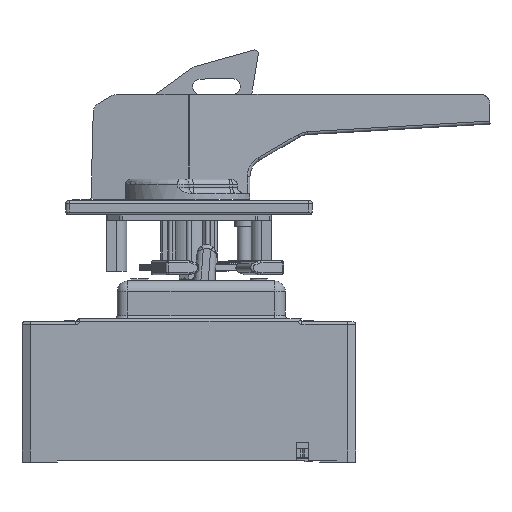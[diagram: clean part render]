
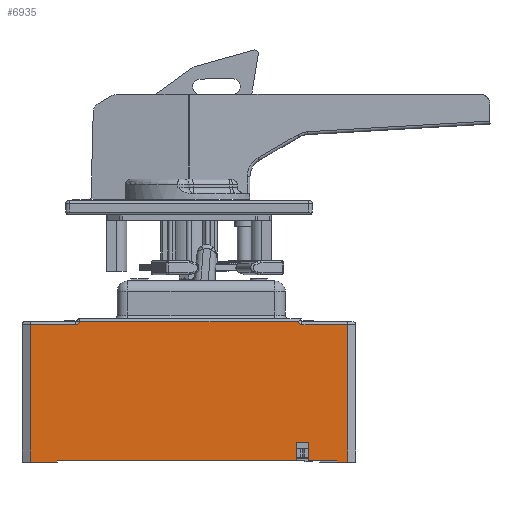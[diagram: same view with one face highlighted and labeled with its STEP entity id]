
A CAD part, left-side view. The second image highlights one B-rep face of the part: STEP entity #6935.
In plain terms, the highlighted planar face has unit normal (-1, 0, 0).
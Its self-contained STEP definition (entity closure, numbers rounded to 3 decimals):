
#169 = EDGE_CURVE ( 'NONE', #40783, #26105, #29309, .T. ) ;
#273 = AXIS2_PLACEMENT_3D ( 'NONE', #9153, #54560, #34738 ) ;
#279 = DIRECTION ( 'NONE',  ( 0., 0., -1. ) ) ;
#3512 = LINE ( 'NONE', #19849, #56014 ) ;
#3765 = ORIENTED_EDGE ( 'NONE', *, *, #8911, .T. ) ;
#3973 = CIRCLE ( 'NONE', #273, 2. ) ;
#4358 = DIRECTION ( 'NONE',  ( 0., 0., -1. ) ) ;
#4631 = DIRECTION ( 'NONE',  ( 0., -1., 0. ) ) ;
#5135 = ORIENTED_EDGE ( 'NONE', *, *, #6012, .T. ) ;
#5170 = VECTOR ( 'NONE', #29432, 1000. ) ;
#6012 = EDGE_CURVE ( 'NONE', #20025, #35749, #40407, .T. ) ;
#6935 = ADVANCED_FACE ( 'NONE', ( #52987 ), #35695, .T. ) ;
#6945 = VERTEX_POINT ( 'NONE', #29939 ) ;
#6983 = ORIENTED_EDGE ( 'NONE', *, *, #11065, .T. ) ;
#7377 = CARTESIAN_POINT ( 'NONE',  ( -56.25, 87.5, 27. ) ) ;
#8001 = VERTEX_POINT ( 'NONE', #33211 ) ;
#8096 = LINE ( 'NONE', #14397, #42358 ) ;
#8433 = ORIENTED_EDGE ( 'NONE', *, *, #33082, .T. ) ;
#8891 = ORIENTED_EDGE ( 'NONE', *, *, #33452, .F. ) ;
#8911 = EDGE_CURVE ( 'NONE', #6945, #57090, #39326, .T. ) ;
#9153 = CARTESIAN_POINT ( 'NONE',  ( -56.25, -59.242, 29. ) ) ;
#10509 = CARTESIAN_POINT ( 'NONE',  ( -56.25, 59.242, 27. ) ) ;
#11065 = EDGE_CURVE ( 'NONE', #15826, #37876, #3973, .T. ) ;
#11766 = VECTOR ( 'NONE', #42995, 1000. ) ;
#11772 = VECTOR ( 'NONE', #51034, 1000. ) ;
#11818 = LINE ( 'NONE', #53090, #54825 ) ;
#12434 = EDGE_CURVE ( 'NONE', #35749, #61010, #11818, .T. ) ;
#13328 = VECTOR ( 'NONE', #28623, 1000. ) ;
#13403 = ORIENTED_EDGE ( 'NONE', *, *, #53538, .T. ) ;
#13912 = CARTESIAN_POINT ( 'NONE',  ( -56.25, 69., 144.712 ) ) ;
#14171 = ORIENTED_EDGE ( 'NONE', *, *, #12434, .T. ) ;
#14397 = CARTESIAN_POINT ( 'NONE',  ( -56.25, 83.2, 27. ) ) ;
#15826 = VERTEX_POINT ( 'NONE', #51194 ) ;
#16328 = AXIS2_PLACEMENT_3D ( 'NONE', #25218, #20319, #61326 ) ;
#16785 = ORIENTED_EDGE ( 'NONE', *, *, #48708, .T. ) ;
#17493 = AXIS2_PLACEMENT_3D ( 'NONE', #32123, #62898, #37278 ) ;
#17797 = CARTESIAN_POINT ( 'NONE',  ( -56.25, -83.2, 27. ) ) ;
#19376 = CARTESIAN_POINT ( 'NONE',  ( -56.25, 69., -44. ) ) ;
#19849 = CARTESIAN_POINT ( 'NONE',  ( -56.25, -62.8, 92.737 ) ) ;
#20025 = VERTEX_POINT ( 'NONE', #59140 ) ;
#20319 = DIRECTION ( 'NONE',  ( 1., 0., 0. ) ) ;
#20688 = EDGE_CURVE ( 'NONE', #24041, #8001, #44475, .T. ) ;
#21060 = LINE ( 'NONE', #31519, #49766 ) ;
#21191 = CARTESIAN_POINT ( 'NONE',  ( -56.25, 69., -44. ) ) ;
#21872 = LINE ( 'NONE', #19376, #5170 ) ;
#24041 = VERTEX_POINT ( 'NONE', #53978 ) ;
#24951 = ORIENTED_EDGE ( 'NONE', *, *, #38108, .T. ) ;
#25218 = CARTESIAN_POINT ( 'NONE',  ( -56.25, 59.242, 29. ) ) ;
#25261 = VERTEX_POINT ( 'NONE', #45465 ) ;
#25725 = ORIENTED_EDGE ( 'NONE', *, *, #43520, .F. ) ;
#26105 = VERTEX_POINT ( 'NONE', #48029 ) ;
#27830 = DIRECTION ( 'NONE',  ( 0., 0., -1. ) ) ;
#28623 = DIRECTION ( 'NONE',  ( 0., 1., 0. ) ) ;
#28786 = ORIENTED_EDGE ( 'NONE', *, *, #57904, .T. ) ;
#29309 = LINE ( 'NONE', #21191, #11772 ) ;
#29432 = DIRECTION ( 'NONE',  ( 0., -1., 0. ) ) ;
#29939 = CARTESIAN_POINT ( 'NONE',  ( -56.25, 57.306, 28.5 ) ) ;
#30659 = LINE ( 'NONE', #43602, #48245 ) ;
#31324 = EDGE_CURVE ( 'NONE', #32546, #53123, #60331, .T. ) ;
#31519 = CARTESIAN_POINT ( 'NONE',  ( -56.25, -56.3, 92.737 ) ) ;
#31669 = CARTESIAN_POINT ( 'NONE',  ( -56.25, 69., -45. ) ) ;
#32123 = CARTESIAN_POINT ( 'NONE',  ( -56.25, -87.5, -45. ) ) ;
#32308 = ORIENTED_EDGE ( 'NONE', *, *, #20688, .T. ) ;
#32546 = VERTEX_POINT ( 'NONE', #53286 ) ;
#33082 = EDGE_CURVE ( 'NONE', #25261, #32546, #30659, .T. ) ;
#33211 = CARTESIAN_POINT ( 'NONE',  ( -56.25, -62.8, -35. ) ) ;
#33452 = EDGE_CURVE ( 'NONE', #24041, #49350, #21060, .T. ) ;
#34738 = DIRECTION ( 'NONE',  ( 0., 1., 0. ) ) ;
#35695 = PLANE ( 'NONE',  #17493 ) ;
#35749 = VERTEX_POINT ( 'NONE', #46949 ) ;
#36426 = VECTOR ( 'NONE', #38507, 1000. ) ;
#37278 = DIRECTION ( 'NONE',  ( 0., -1., 0. ) ) ;
#37876 = VERTEX_POINT ( 'NONE', #53724 ) ;
#38108 = EDGE_CURVE ( 'NONE', #8001, #40783, #3512, .T. ) ;
#38507 = DIRECTION ( 'NONE',  ( 0., -1., 0. ) ) ;
#38867 = LINE ( 'NONE', #7377, #11766 ) ;
#39326 = CIRCLE ( 'NONE', #16328, 2. ) ;
#39356 = CARTESIAN_POINT ( 'NONE',  ( -56.25, -77.5, 144.712 ) ) ;
#39746 = CARTESIAN_POINT ( 'NONE',  ( -56.25, -56.3, -44. ) ) ;
#40407 = LINE ( 'NONE', #44257, #36426 ) ;
#40783 = VERTEX_POINT ( 'NONE', #51816 ) ;
#42358 = VECTOR ( 'NONE', #54262, 1000. ) ;
#42757 = VERTEX_POINT ( 'NONE', #62794 ) ;
#42995 = DIRECTION ( 'NONE',  ( 0., 1., 0. ) ) ;
#43395 = VECTOR ( 'NONE', #4358, 1000. ) ;
#43520 = EDGE_CURVE ( 'NONE', #42757, #53123, #59332, .T. ) ;
#43602 = CARTESIAN_POINT ( 'NONE',  ( -56.25, 83.2, -45. ) ) ;
#44257 = CARTESIAN_POINT ( 'NONE',  ( -56.25, -87.5, -45. ) ) ;
#44475 = LINE ( 'NONE', #52088, #48457 ) ;
#45465 = CARTESIAN_POINT ( 'NONE',  ( -56.25, 83.2, 27. ) ) ;
#46744 = VECTOR ( 'NONE', #4631, 1000. ) ;
#46949 = CARTESIAN_POINT ( 'NONE',  ( -56.25, -83.2, -45. ) ) ;
#48029 = CARTESIAN_POINT ( 'NONE',  ( -56.25, -77.5, -44. ) ) ;
#48172 = DIRECTION ( 'NONE',  ( 0., 0., 1. ) ) ;
#48245 = VECTOR ( 'NONE', #27830, 1000. ) ;
#48457 = VECTOR ( 'NONE', #62353, 1000. ) ;
#48708 = EDGE_CURVE ( 'NONE', #61010, #15826, #38867, .T. ) ;
#48892 = VECTOR ( 'NONE', #54708, 1000. ) ;
#49350 = VERTEX_POINT ( 'NONE', #39746 ) ;
#49766 = VECTOR ( 'NONE', #62280, 1000. ) ;
#51034 = DIRECTION ( 'NONE',  ( 0., -1., 0. ) ) ;
#51194 = CARTESIAN_POINT ( 'NONE',  ( -56.25, -59.242, 27. ) ) ;
#51816 = CARTESIAN_POINT ( 'NONE',  ( -56.25, -62.8, -44. ) ) ;
#51958 = ORIENTED_EDGE ( 'NONE', *, *, #58765, .T. ) ;
#52088 = CARTESIAN_POINT ( 'NONE',  ( -56.25, -62.8, -35. ) ) ;
#52177 = EDGE_CURVE ( 'NONE', #37876, #6945, #62751, .T. ) ;
#52987 = FACE_OUTER_BOUND ( 'NONE', #59312, .T. ) ;
#53090 = CARTESIAN_POINT ( 'NONE',  ( -56.25, -83.2, -45. ) ) ;
#53123 = VERTEX_POINT ( 'NONE', #31669 ) ;
#53286 = CARTESIAN_POINT ( 'NONE',  ( -56.25, 83.2, -45. ) ) ;
#53538 = EDGE_CURVE ( 'NONE', #42757, #49350, #21872, .T. ) ;
#53543 = ORIENTED_EDGE ( 'NONE', *, *, #31324, .T. ) ;
#53635 = ORIENTED_EDGE ( 'NONE', *, *, #169, .T. ) ;
#53724 = CARTESIAN_POINT ( 'NONE',  ( -56.25, -57.306, 28.5 ) ) ;
#53773 = CARTESIAN_POINT ( 'NONE',  ( -56.25, 57.742, 28.5 ) ) ;
#53978 = CARTESIAN_POINT ( 'NONE',  ( -56.25, -56.3, -35. ) ) ;
#54262 = DIRECTION ( 'NONE',  ( 0., 1., 0. ) ) ;
#54560 = DIRECTION ( 'NONE',  ( 1., 0., 0. ) ) ;
#54708 = DIRECTION ( 'NONE',  ( 0., 0., -1. ) ) ;
#54825 = VECTOR ( 'NONE', #48172, 1000. ) ;
#56014 = VECTOR ( 'NONE', #279, 1000. ) ;
#57090 = VERTEX_POINT ( 'NONE', #10509 ) ;
#57904 = EDGE_CURVE ( 'NONE', #26105, #20025, #64793, .T. ) ;
#58586 = ORIENTED_EDGE ( 'NONE', *, *, #52177, .T. ) ;
#58765 = EDGE_CURVE ( 'NONE', #57090, #25261, #8096, .T. ) ;
#59140 = CARTESIAN_POINT ( 'NONE',  ( -56.25, -77.5, -45. ) ) ;
#59312 = EDGE_LOOP ( 'NONE', ( #8891, #32308, #24951, #53635, #28786, #5135, #14171, #16785, #6983, #58586, #3765, #51958, #8433, #53543, #25725, #13403 ) ) ;
#59332 = LINE ( 'NONE', #13912, #43395 ) ;
#60331 = LINE ( 'NONE', #60540, #46744 ) ;
#60540 = CARTESIAN_POINT ( 'NONE',  ( -56.25, -87.5, -45. ) ) ;
#61010 = VERTEX_POINT ( 'NONE', #17797 ) ;
#61326 = DIRECTION ( 'NONE',  ( 0., 1., 0. ) ) ;
#62280 = DIRECTION ( 'NONE',  ( 0., 0., -1. ) ) ;
#62353 = DIRECTION ( 'NONE',  ( 0., -1., 0. ) ) ;
#62751 = LINE ( 'NONE', #53773, #13328 ) ;
#62794 = CARTESIAN_POINT ( 'NONE',  ( -56.25, 69., -44. ) ) ;
#62898 = DIRECTION ( 'NONE',  ( -1., 0., 0. ) ) ;
#64793 = LINE ( 'NONE', #39356, #48892 ) ;
